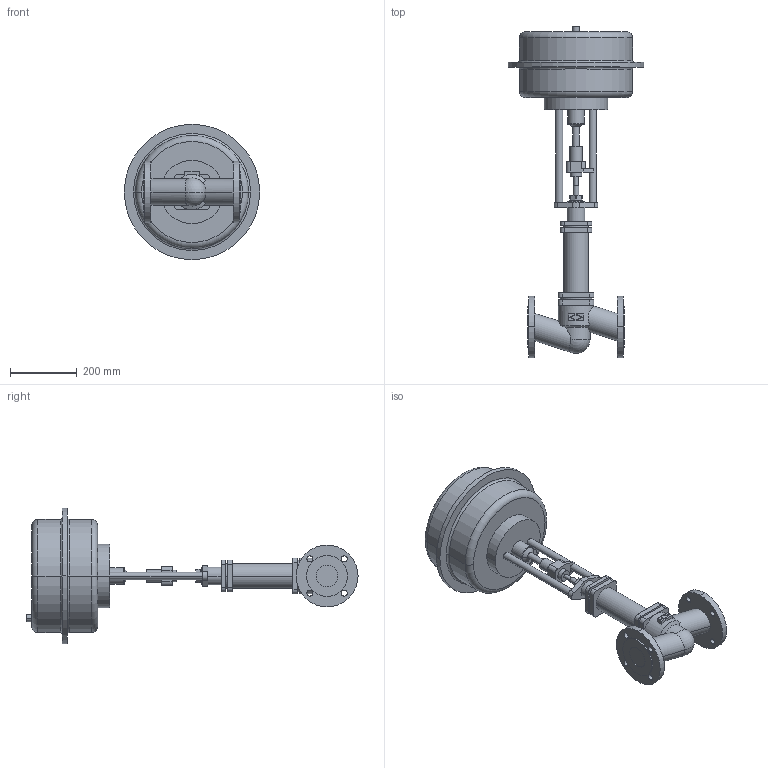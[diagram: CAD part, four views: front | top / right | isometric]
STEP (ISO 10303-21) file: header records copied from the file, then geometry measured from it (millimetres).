
FILE_DESCRIPTION(('OneSpaceDesigner STEP Export'),'2;1');
FILE_NAME('c000002083.stp','2005-12-12T11:27:01',(''),(''),'OneSpace Designer STEP processor for AP203 (Solid Model)','OneSpace Designer 13.20A 18-Aug-2005 (C) CoCreate Software GmbH','');
FILE_SCHEMA(('CONFIG_CONTROL_DESIGN'));
Length unit declared in the file: millimetre
Products named in the file (1): 1
Bounding box: 405 x 993 x 405 mm (x, y, z)
Volume: 24018082.1 mm3; surface area: 875035.9 mm2
Topology: 1 solids, 1 shells, 205 faces, 505 edges, 332 vertices
Faces by surface type: cylinder 104, plane 85, torus 10, cone 4, sphere 2
Entity records: 5897 total; most frequent: CARTESIAN_POINT 1217, ORIENTED_EDGE 1006, DIRECTION 883, EDGE_CURVE 503, VERTEX_POINT 332, AXIS2_PLACEMENT_3D 315, EDGE_LOOP 257, VECTOR 253
